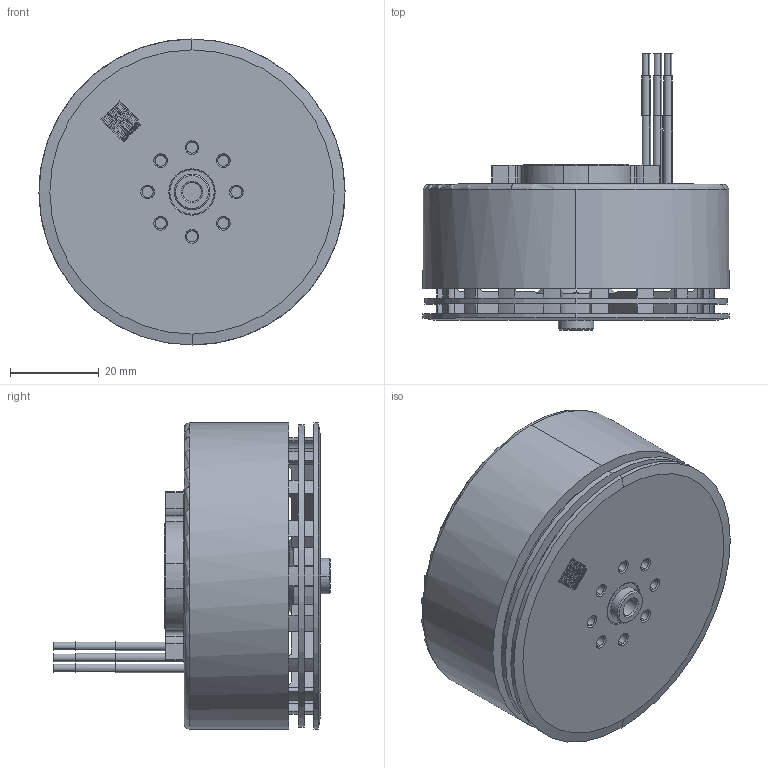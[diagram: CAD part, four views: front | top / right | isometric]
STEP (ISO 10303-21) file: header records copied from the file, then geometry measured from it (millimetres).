
FILE_DESCRIPTION (( 'STEP AP203' ), '1' );
FILE_NAME ('勤俋3D-UAVM-X6-PLUS-6218-150KV-BLACK-G2-HW.STEP', '2025-08-13T01:35:47', ( '' ), ( '' ), 'SwSTEP 2.0', 'SolidWorks 2021', '' );
FILE_SCHEMA (( 'CONFIG_CONTROL_DESIGN' ));
Length unit declared in the file: millimetre
Products named in the file (1): 勤俋3D-UAVM-X6-PLUS-6218-150KV-BLACK-G2-HW
Bounding box: 68.9 x 62.3 x 68.9 mm (x, y, z)
Volume: 94870 mm3; surface area: 27723.2 mm2
Topology: 1 solids, 6 shells, 1177 faces, 3334 edges, 2175 vertices
Faces by surface type: plane 591, cylinder 360, bspline 143, cone 71, torus 12
Entity records: 48903 total; most frequent: CARTESIAN_POINT 18356, ORIENTED_EDGE 6664, DIRECTION 6067, EDGE_CURVE 3332, VERTEX_POINT 2175, AXIS2_PLACEMENT_3D 2090, LINE 1887, VECTOR 1887
